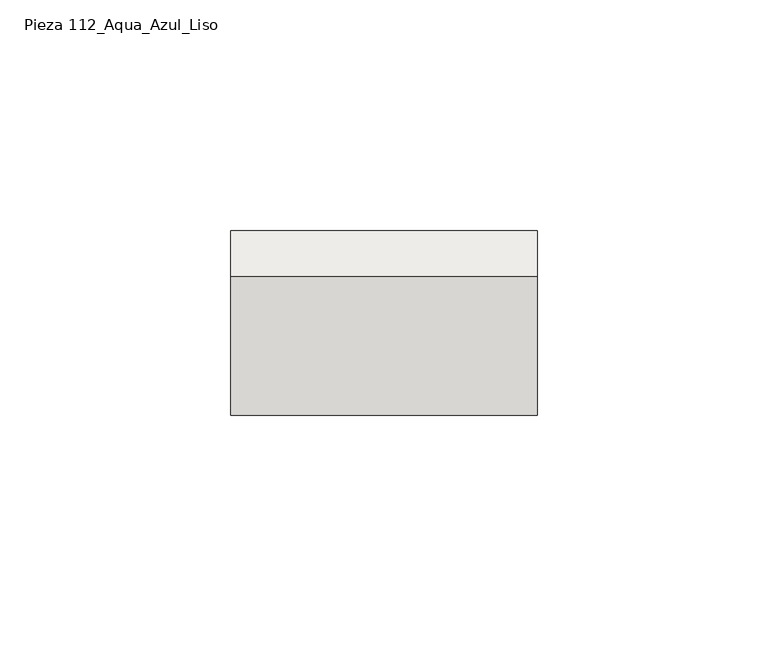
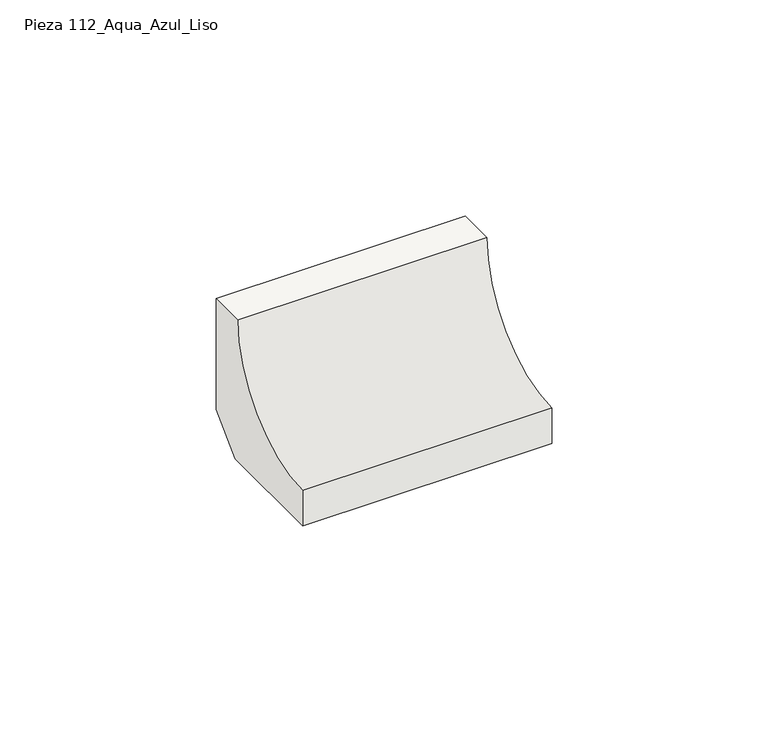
"""IFC4 building model written with IfcOpenShell, lengths in millimetres: slab geometry, ROSA GRES_112 : Pieza 112_Aqua_Azul_Liso."""

from ifc_helpers import new_model, si_unit, point, frame, frame_2d, origin, place, context, project, spatial, polyline, circle_curve, trimmed, segment, composite_curve, outline, extrude, source, transform, mapped, element, save


def pieza_112_aqua_azul_liso_ba36763c(model_context):
    return source(origin(), model_context, "Body", "SweptSolid", [
        extrude(outline(composite_curve([segment(polyline([(0.0, 8.7114978), (-8.7114978, 0.0), (-40.0, 0.0), (-40.0, 9.9734114)]), True, "CONTINUOUS"), segment(trimmed(circle_curve(frame_2d((-39.9955547, 39.9955547)), 30.0221435), [point((-40.0, 9.9734114))], [point((-9.9734114, 40.0))], True, "CARTESIAN"), True, "CONTINUOUS"), segment(polyline([(-9.9734114, 40.0), (0.0, 40.0), (0.0, 8.7114978)]), True, "CONTINUOUS")], self_intersect=False)), frame((0.0, 0.0, 0.0), z_axis=(1.0, 0.0, 0.0), x_axis=(0.0, 1.0, 0.0)), (0.0, 0.0, 1.0), 66.546875),
    ])


if __name__ == "__main__":
    model = new_model("IFC4")
    model_context = context("Model", 3, world=origin())
    ifc_project = project(units=[si_unit("LENGTHUNIT", "METRE", prefix="MILLI")], contexts=[model_context])
    site = spatial("IfcSite", under=ifc_project)
    building = spatial("IfcBuilding", under=site)
    placement = place(None, origin())
    pieza_112_aqua_azul_liso_shape = pieza_112_aqua_azul_liso_ba36763c(model_context)
    element("IfcSlab", 1, ObjectType="ROSA GRES_112 : Pieza 112_Aqua_Azul_Liso", at=placement, inside=building, context=model_context, shape_type="MappedRepresentation", body=[
        mapped(pieza_112_aqua_azul_liso_shape, transform((0.0, 0.0, 0.0), x_axis=(1.0, 0.0, 0.0), y_axis=(0.0, 1.0, 0.0), z_axis=(0.0, 0.0, 1.0))),
    ])
    save(model, "model.ifc")
